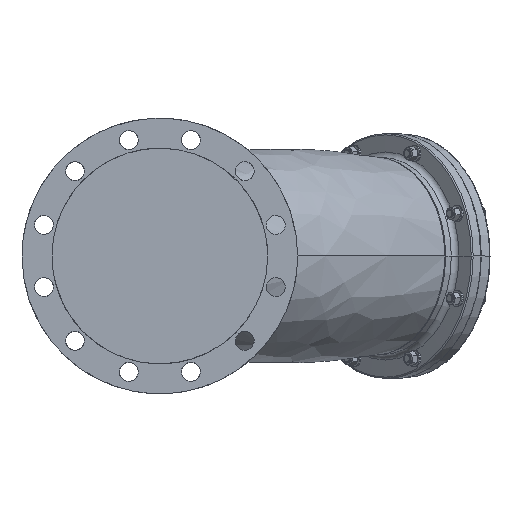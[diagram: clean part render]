
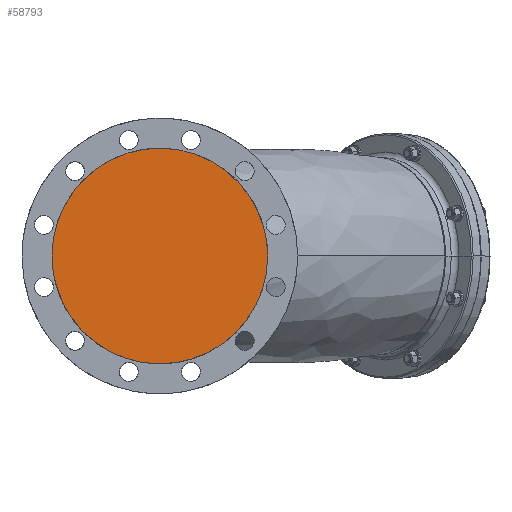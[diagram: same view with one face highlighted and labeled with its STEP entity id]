
A CAD part, left-side view. The second image highlights one B-rep face of the part: STEP entity #58793.
In plain terms, the highlighted planar face has unit normal (-1, 0, 0).
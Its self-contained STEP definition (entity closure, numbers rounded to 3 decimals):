
#656 = CARTESIAN_POINT ( 'NONE',  ( -365., 143.364, 70.683 ) ) ;
#1252 = CARTESIAN_POINT ( 'NONE',  ( -365., -159.5, 0. ) ) ;
#1429 = CARTESIAN_POINT ( 'NONE',  ( -365., -158.472, 20.878 ) ) ;
#1526 = CARTESIAN_POINT ( 'NONE',  ( -365., -41.356, -154.399 ) ) ;
#1946 = CARTESIAN_POINT ( 'NONE',  ( -365., -159.5, 0. ) ) ;
#2043 = CARTESIAN_POINT ( 'NONE',  ( -365., -143.364, -70.683 ) ) ;
#5935 = CARTESIAN_POINT ( 'NONE',  ( -365., -120.165, 105.402 ) ) ;
#6702 = CARTESIAN_POINT ( 'NONE',  ( -365., 138.419, 79.934 ) ) ;
#7582 = CARTESIAN_POINT ( 'NONE',  ( -365., 159.5, 0. ) ) ;
#8361 = CARTESIAN_POINT ( 'NONE',  ( -365., 51.393, -151.354 ) ) ;
#11768 = CARTESIAN_POINT ( 'NONE',  ( -365., 41.356, 154.399 ) ) ;
#12028 = CARTESIAN_POINT ( 'NONE',  ( -365., 159.5, 10.439 ) ) ;
#13315 = CARTESIAN_POINT ( 'NONE',  ( -365., -159.5, 10.439 ) ) ;
#13675 = CARTESIAN_POINT ( 'NONE',  ( -365., -138.419, -79.934 ) ) ;
#13933 = CARTESIAN_POINT ( 'NONE',  ( -365., 154.399, -41.356 ) ) ;
#14199 = CARTESIAN_POINT ( 'NONE',  ( -365., -154.399, -41.356 ) ) ;
#14446 = CARTESIAN_POINT ( 'NONE',  ( -365., -79.934, -138.419 ) ) ;
#17406 = CARTESIAN_POINT ( 'NONE',  ( -365., 0., 0. ) ) ;
#17867 = CARTESIAN_POINT ( 'NONE',  ( -365., -10.439, 159.5 ) ) ;
#18129 = CARTESIAN_POINT ( 'NONE',  ( -365., -138.419, 79.934 ) ) ;
#18377 = CARTESIAN_POINT ( 'NONE',  ( -365., 158.472, 20.878 ) ) ;
#18636 = CARTESIAN_POINT ( 'NONE',  ( -365., 20.878, 158.472 ) ) ;
#19759 = CARTESIAN_POINT ( 'NONE',  ( -365., -158.472, -20.878 ) ) ;
#20018 = CARTESIAN_POINT ( 'NONE',  ( -365., -120.165, -105.402 ) ) ;
#20268 = CARTESIAN_POINT ( 'NONE',  ( -365., 20.878, -158.472 ) ) ;
#23678 = CARTESIAN_POINT ( 'NONE',  ( -365., 105.402, 120.165 ) ) ;
#23714 = B_SPLINE_CURVE_WITH_KNOTS ( 'NONE', 3,
 ( #1252, #61718, #19759, #14199, #68290, #2043, #13675, #56416, #20018, #25841, #55902, #14446, #44529, #68038, #1526, #43491, #31905, #50348, #20268, #62751, #8361, #31644, #49571, #37714, #26366, #32164, #26621, #68553, #73864, #32413, #13933, #74652, #43741, #7582 ),
 .UNSPECIFIED., .F., .F.,
 ( 4, 2, 2, 2, 2, 2, 2, 2, 2, 2, 2, 2, 2, 2, 2, 2, 4 ),
 ( 0., 0.062, 0.125, 0.187, 0.25, 0.312, 0.375, 0.437, 0.5, 0.562, 0.625, 0.687, 0.75, 0.812, 0.875, 0.938, 1. ),
 .UNSPECIFIED. ) ;
#23930 = CARTESIAN_POINT ( 'NONE',  ( -365., -20.878, 158.472 ) ) ;
#24001 = DIRECTION ( 'NONE',  ( 0., -1., 0. ) ) ;
#24189 = CARTESIAN_POINT ( 'NONE',  ( -365., 126.82, 97.293 ) ) ;
#25841 = CARTESIAN_POINT ( 'NONE',  ( -365., -105.402, -120.165 ) ) ;
#26184 = EDGE_CURVE ( 'NONE', #50541, #65564, #23714, .T. ) ;
#26366 = CARTESIAN_POINT ( 'NONE',  ( -365., 105.402, -120.165 ) ) ;
#26621 = CARTESIAN_POINT ( 'NONE',  ( -365., 126.82, -97.293 ) ) ;
#29574 = DIRECTION ( 'NONE',  ( -1., 0., 0. ) ) ;
#29833 = PLANE ( 'NONE',  #54145 ) ;
#30790 = CARTESIAN_POINT ( 'NONE',  ( -365., -70.683, 143.364 ) ) ;
#31453 = B_SPLINE_CURVE_WITH_KNOTS ( 'NONE', 3,
 ( #35821, #12028, #18377, #60585, #36080, #656, #6702, #24189, #42126, #23678, #66401, #54775, #78020, #41856, #11768, #18636, #72736, #17867, #23930, #60843, #60071, #30790, #72988, #36852, #72213, #5935, #48200, #18129, #60334, #73253, #37097, #1429, #13315, #1946 ),
 .UNSPECIFIED., .F., .F.,
 ( 4, 2, 2, 2, 2, 2, 2, 2, 2, 2, 2, 2, 2, 2, 2, 2, 4 ),
 ( 0., 0.063, 0.125, 0.188, 0.25, 0.313, 0.375, 0.438, 0.5, 0.563, 0.625, 0.688, 0.75, 0.813, 0.875, 0.938, 1. ),
 .UNSPECIFIED. ) ;
#31644 = CARTESIAN_POINT ( 'NONE',  ( -365., 70.683, -143.364 ) ) ;
#31905 = CARTESIAN_POINT ( 'NONE',  ( -365., -10.439, -159.5 ) ) ;
#32164 = CARTESIAN_POINT ( 'NONE',  ( -365., 120.165, -105.402 ) ) ;
#32413 = CARTESIAN_POINT ( 'NONE',  ( -365., 151.354, -51.393 ) ) ;
#34908 = ORIENTED_EDGE ( 'NONE', *, *, #52133, .F. ) ;
#35821 = CARTESIAN_POINT ( 'NONE',  ( -365., 159.5, 0. ) ) ;
#36080 = CARTESIAN_POINT ( 'NONE',  ( -365., 151.354, 51.393 ) ) ;
#36443 = ORIENTED_EDGE ( 'NONE', *, *, #26184, .F. ) ;
#36852 = CARTESIAN_POINT ( 'NONE',  ( -365., -97.293, 126.82 ) ) ;
#37097 = CARTESIAN_POINT ( 'NONE',  ( -365., -154.399, 41.356 ) ) ;
#37714 = CARTESIAN_POINT ( 'NONE',  ( -365., 97.293, -126.82 ) ) ;
#41856 = CARTESIAN_POINT ( 'NONE',  ( -365., 51.393, 151.354 ) ) ;
#42126 = CARTESIAN_POINT ( 'NONE',  ( -365., 120.165, 105.402 ) ) ;
#43491 = CARTESIAN_POINT ( 'NONE',  ( -365., -20.878, -158.472 ) ) ;
#43741 = CARTESIAN_POINT ( 'NONE',  ( -365., 159.5, -10.439 ) ) ;
#44529 = CARTESIAN_POINT ( 'NONE',  ( -365., -70.683, -143.364 ) ) ;
#48200 = CARTESIAN_POINT ( 'NONE',  ( -365., -126.82, 97.293 ) ) ;
#49571 = CARTESIAN_POINT ( 'NONE',  ( -365., 79.934, -138.419 ) ) ;
#50348 = CARTESIAN_POINT ( 'NONE',  ( -365., 10.439, -159.5 ) ) ;
#50541 = VERTEX_POINT ( 'NONE', #59323 ) ;
#52133 = EDGE_CURVE ( 'NONE', #65564, #50541, #31453, .T. ) ;
#54145 = AXIS2_PLACEMENT_3D ( 'NONE', #17406, #29574, #24001 ) ;
#54775 = CARTESIAN_POINT ( 'NONE',  ( -365., 79.934, 138.419 ) ) ;
#55902 = CARTESIAN_POINT ( 'NONE',  ( -365., -97.293, -126.82 ) ) ;
#56416 = CARTESIAN_POINT ( 'NONE',  ( -365., -126.82, -97.293 ) ) ;
#58793 = ADVANCED_FACE ( 'NONE', ( #68142 ), #29833, .T. ) ;
#59323 = CARTESIAN_POINT ( 'NONE',  ( -365., -159.5, 0. ) ) ;
#60071 = CARTESIAN_POINT ( 'NONE',  ( -365., -51.393, 151.354 ) ) ;
#60334 = CARTESIAN_POINT ( 'NONE',  ( -365., -143.364, 70.683 ) ) ;
#60585 = CARTESIAN_POINT ( 'NONE',  ( -365., 154.399, 41.356 ) ) ;
#60843 = CARTESIAN_POINT ( 'NONE',  ( -365., -41.356, 154.399 ) ) ;
#61718 = CARTESIAN_POINT ( 'NONE',  ( -365., -159.5, -10.439 ) ) ;
#62751 = CARTESIAN_POINT ( 'NONE',  ( -365., 41.356, -154.399 ) ) ;
#63409 = EDGE_LOOP ( 'NONE', ( #34908, #36443 ) ) ;
#65564 = VERTEX_POINT ( 'NONE', #73882 ) ;
#66401 = CARTESIAN_POINT ( 'NONE',  ( -365., 97.293, 126.82 ) ) ;
#68038 = CARTESIAN_POINT ( 'NONE',  ( -365., -51.393, -151.354 ) ) ;
#68142 = FACE_OUTER_BOUND ( 'NONE', #63409, .T. ) ;
#68290 = CARTESIAN_POINT ( 'NONE',  ( -365., -151.354, -51.393 ) ) ;
#68553 = CARTESIAN_POINT ( 'NONE',  ( -365., 138.419, -79.934 ) ) ;
#72213 = CARTESIAN_POINT ( 'NONE',  ( -365., -105.402, 120.165 ) ) ;
#72736 = CARTESIAN_POINT ( 'NONE',  ( -365., 10.439, 159.5 ) ) ;
#72988 = CARTESIAN_POINT ( 'NONE',  ( -365., -79.934, 138.419 ) ) ;
#73253 = CARTESIAN_POINT ( 'NONE',  ( -365., -151.354, 51.393 ) ) ;
#73864 = CARTESIAN_POINT ( 'NONE',  ( -365., 143.364, -70.683 ) ) ;
#73882 = CARTESIAN_POINT ( 'NONE',  ( -365., 159.5, 0. ) ) ;
#74652 = CARTESIAN_POINT ( 'NONE',  ( -365., 158.472, -20.878 ) ) ;
#78020 = CARTESIAN_POINT ( 'NONE',  ( -365., 70.683, 143.364 ) ) ;
